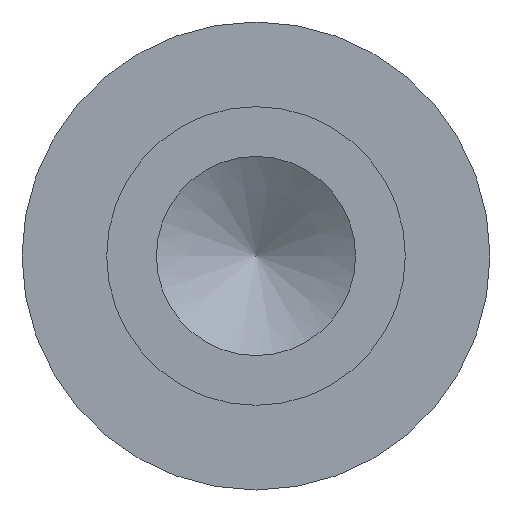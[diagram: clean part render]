
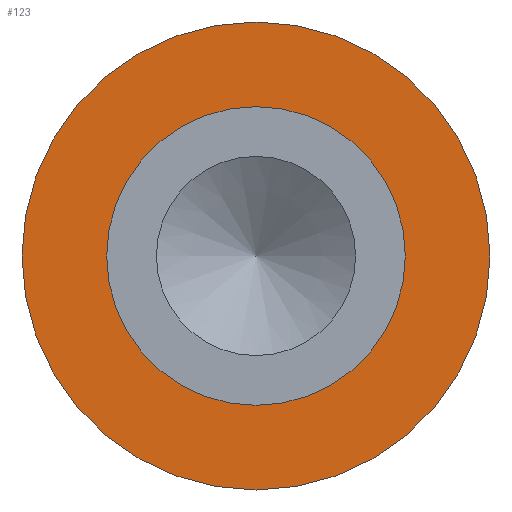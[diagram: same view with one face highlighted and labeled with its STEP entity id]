
A CAD part, left-side view. The second image highlights one B-rep face of the part: STEP entity #123.
In plain terms, the highlighted planar face has unit normal (-1, 0, 0).
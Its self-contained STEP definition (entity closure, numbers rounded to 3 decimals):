
#15=PLANE($,#147);
#24=FACE_BOUND($,#58,.T.);
#40=FACE_OUTER_BOUND($,#57,.T.);
#57=EDGE_LOOP($,(#107));
#58=EDGE_LOOP($,(#108));
#68=CIRCLE($,#143,1.194);
#69=CIRCLE($,#145,0.762);
#78=VERTEX_POINT($,#216);
#79=VERTEX_POINT($,#219);
#88=EDGE_CURVE($,#78,#78,#68,.T.);
#89=EDGE_CURVE($,#79,#79,#69,.T.);
#107=ORIENTED_EDGE($,*,*,#88,.F.);
#108=ORIENTED_EDGE($,*,*,#89,.T.);
#123=ADVANCED_FACE($,(#40,#24),#15,.T.);
#143=AXIS2_PLACEMENT_3D($,#217,#181,#182);
#145=AXIS2_PLACEMENT_3D($,#220,#185,#186);
#147=AXIS2_PLACEMENT_3D($,#223,#189,#190);
#181=DIRECTION('center_axis',(1.,0.,0.));
#182=DIRECTION('ref_axis',(0.,1.,0.));
#185=DIRECTION('center_axis',(1.,0.,0.));
#186=DIRECTION('ref_axis',(0.,1.,0.));
#189=DIRECTION('center_axis',(-1.,0.,0.));
#190=DIRECTION('ref_axis',(0.,0.,1.));
#216=CARTESIAN_POINT('',(3.175,1.194,0.));
#217=CARTESIAN_POINT('Origin',(3.175,0.,0.));
#219=CARTESIAN_POINT('',(3.175,0.762,0.));
#220=CARTESIAN_POINT('Origin',(3.175,0.,0.));
#223=CARTESIAN_POINT('Origin',(3.175,0.978,0.));
